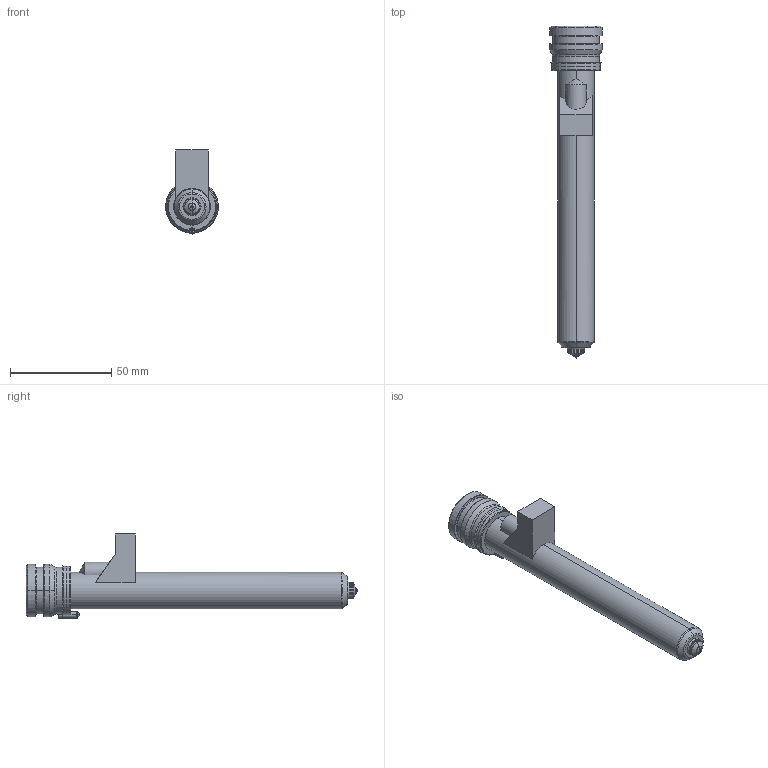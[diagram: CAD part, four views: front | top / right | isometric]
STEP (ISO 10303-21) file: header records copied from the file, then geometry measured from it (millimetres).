
FILE_DESCRIPTION((''),'2;1');
FILE_NAME('MPN-08-24-VSA8-146-M','2026-02-05T13:34:46',('UPTIO'),('Thermoplay S.p.A.'),'CREO PARAMETRIC BY PTC INC, 2023494','CREO PARAMETRIC BY PTC INC, 2023494','');
FILE_SCHEMA(('CONFIG_CONTROL_DESIGN','SHAPE_APPEARANCE_LAYERS_GROUPS'));
Length unit declared in the file: millimetre
Products named in the file (1): MPN-08-24-VSA8-146-M
Bounding box: 26 x 164 x 41.5 mm (x, y, z)
Volume: 31319.3 mm3; surface area: 41688.5 mm2
Topology: 2 solids, 3 shells, 527 faces, 1374 edges, 846 vertices
Faces by surface type: cylinder 176, plane 143, bspline 75, torus 60, cone 58, sphere 9, extrusion 6
Entity records: 27279 total; most frequent: CARTESIAN_POINT 11800, ORIENTED_EDGE 2730, DIRECTION 2497, EDGE_CURVE 1365, AXIS2_PLACEMENT_3D 975, VERTEX_POINT 846, EDGE_LOOP 557, VECTOR 547
